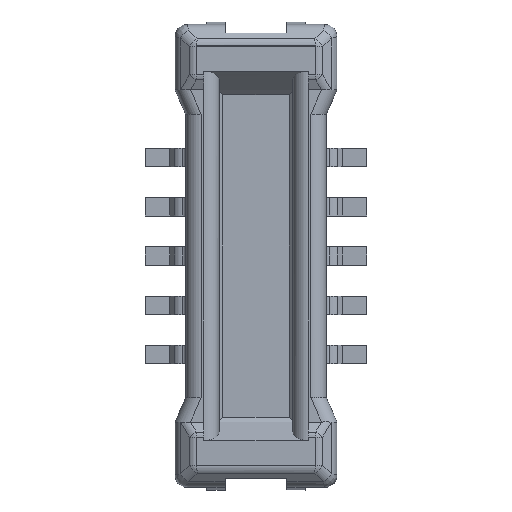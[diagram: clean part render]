
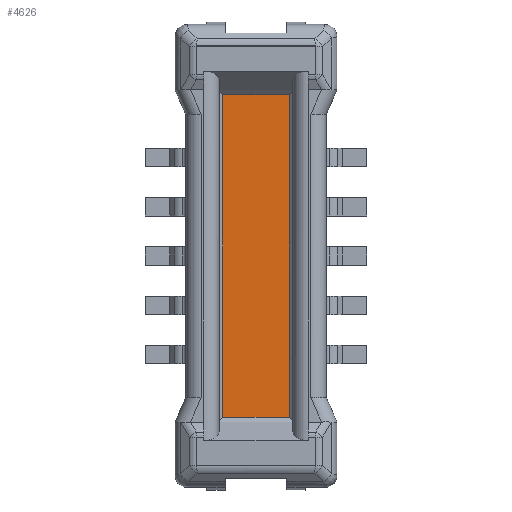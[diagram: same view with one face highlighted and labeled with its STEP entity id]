
A CAD part, top view. The second image highlights one B-rep face of the part: STEP entity #4626.
In plain terms, the highlighted planar face has unit normal (0, 0, 1).
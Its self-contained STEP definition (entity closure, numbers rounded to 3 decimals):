
#2 = EDGE_LOOP ( 'NONE', ( #203, #6211, #394, #5182 ) ) ;
#8 = CARTESIAN_POINT ( 'NONE',  ( 0.27, 0.31, 0.18 ) ) ;
#24 = EDGE_CURVE ( 'NONE', #5556, #3959, #6072, .T. ) ;
#173 = DIRECTION ( 'NONE',  ( 0., -1., 0. ) ) ;
#203 = ORIENTED_EDGE ( 'NONE', *, *, #24, .T. ) ;
#353 = FACE_OUTER_BOUND ( 'NONE', #2, .T. ) ;
#394 = ORIENTED_EDGE ( 'NONE', *, *, #5543, .T. ) ;
#478 = VECTOR ( 'NONE', #5465, 1000. ) ;
#657 = LINE ( 'NONE', #2843, #478 ) ;
#682 = CARTESIAN_POINT ( 'NONE',  ( 0.3, 0.31, 0.18 ) ) ;
#684 = EDGE_CURVE ( 'NONE', #5556, #6611, #5690, .T. ) ;
#1022 = CARTESIAN_POINT ( 'NONE',  ( -0.27, -2.31, 0.18 ) ) ;
#1539 = VERTEX_POINT ( 'NONE', #5003 ) ;
#2015 = CARTESIAN_POINT ( 'NONE',  ( 0.3, -2.31, 0.18 ) ) ;
#2843 = CARTESIAN_POINT ( 'NONE',  ( 0.27, 0., 0.18 ) ) ;
#3913 = AXIS2_PLACEMENT_3D ( 'NONE', #4775, #5365, #6429 ) ;
#3959 = VERTEX_POINT ( 'NONE', #1022 ) ;
#4103 = VECTOR ( 'NONE', #6187, 1000. ) ;
#4398 = CARTESIAN_POINT ( 'NONE',  ( -0.27, 0.31, 0.18 ) ) ;
#4626 = ADVANCED_FACE ( 'NONE', ( #353 ), #4739, .F. ) ;
#4739 = PLANE ( 'NONE',  #3913 ) ;
#4775 = CARTESIAN_POINT ( 'NONE',  ( 0.3, -6.35, 0.18 ) ) ;
#5003 = CARTESIAN_POINT ( 'NONE',  ( 0.27, -2.31, 0.18 ) ) ;
#5067 = VECTOR ( 'NONE', #6936, 1000. ) ;
#5079 = CARTESIAN_POINT ( 'NONE',  ( -0.27, 0., 0.18 ) ) ;
#5182 = ORIENTED_EDGE ( 'NONE', *, *, #684, .F. ) ;
#5365 = DIRECTION ( 'NONE',  ( 0., 0., -1. ) ) ;
#5465 = DIRECTION ( 'NONE',  ( 0., 1., 0. ) ) ;
#5468 = VECTOR ( 'NONE', #173, 1000. ) ;
#5543 = EDGE_CURVE ( 'NONE', #1539, #6611, #657, .T. ) ;
#5556 = VERTEX_POINT ( 'NONE', #4398 ) ;
#5690 = LINE ( 'NONE', #682, #4103 ) ;
#6072 = LINE ( 'NONE', #5079, #5468 ) ;
#6187 = DIRECTION ( 'NONE',  ( 1., 0., 0. ) ) ;
#6211 = ORIENTED_EDGE ( 'NONE', *, *, #6493, .F. ) ;
#6294 = LINE ( 'NONE', #2015, #5067 ) ;
#6429 = DIRECTION ( 'NONE',  ( -1., 0., 0. ) ) ;
#6493 = EDGE_CURVE ( 'NONE', #1539, #3959, #6294, .T. ) ;
#6611 = VERTEX_POINT ( 'NONE', #8 ) ;
#6936 = DIRECTION ( 'NONE',  ( -1., 0., 0. ) ) ;
